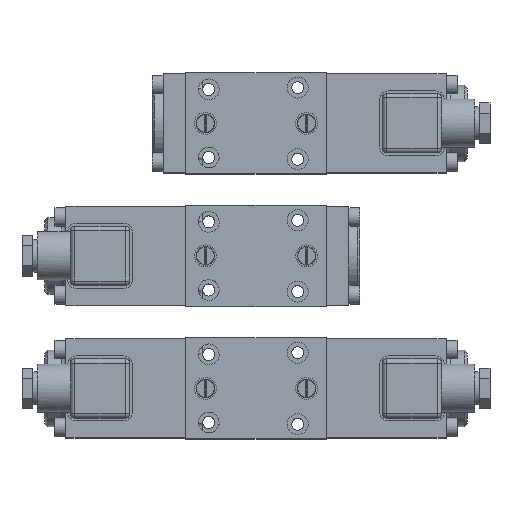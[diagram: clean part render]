
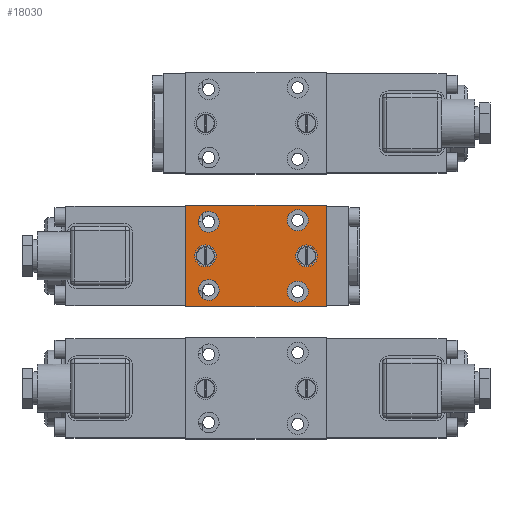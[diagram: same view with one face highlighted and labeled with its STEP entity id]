
A CAD part, top view. The second image highlights one B-rep face of the part: STEP entity #18030.
In plain terms, the highlighted planar face has unit normal (0, 0, 1).
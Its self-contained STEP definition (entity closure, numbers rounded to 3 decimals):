
#18030=ADVANCED_FACE('', (#18040,#18050,#18060,#18070,#18080), #18090, 
.T.);
#72890=AXIS2_PLACEMENT_3D('Ax2Pl3d', #72900, #72910, #72920);
#72930=AXIS2_PLACEMENT_3D('Ax2Pl3d', #72940, #72950, #72960);
#72970=AXIS2_PLACEMENT_3D('Ax2Pl3d', #72980, #72990, #73000);
#73010=AXIS2_PLACEMENT_3D('Ax2Pl3d', #73020, #73030, #73040);
#73050=AXIS2_PLACEMENT_3D('Ax2Pl3d', #73060, #73070, #73080);
#72900=CARTESIAN_POINT('HicPkt', (10.5,67.5,226.));
#140490=CARTESIAN_POINT('', (10.5,72.25,226.));
#72940=CARTESIAN_POINT('HicPkt', (0.,106.,226.));
#140520=CARTESIAN_POINT('', (0.,60.,226.));
#140530=CARTESIAN_POINT('', (0.,106.,226.));
#140540=CARTESIAN_POINT('', (0.,60.,226.));
#140550=CARTESIAN_POINT('', (64.,60.,226.));
#140560=CARTESIAN_POINT('', (64.,60.,226.));
#140570=CARTESIAN_POINT('', (64.,106.,226.));
#140580=CARTESIAN_POINT('', (64.,106.,226.));
#140590=CARTESIAN_POINT('', (0.,106.,226.));
#72980=CARTESIAN_POINT('HicPkt', (10.5,98.5,226.));
#140600=CARTESIAN_POINT('', (10.5,103.25,226.));
#73020=CARTESIAN_POINT('HicPkt', (51.,66.75,226.));
#140610=CARTESIAN_POINT('', (51.,71.5,226.));
#73060=CARTESIAN_POINT('HicPkt', (51.,99.25,226.));
#140620=CARTESIAN_POINT('', (51.,104.,226.));
#159170=CIRCLE('Circle', #72890, 4.75);
#159180=CIRCLE('Circle', #72970, 4.75);
#159190=CIRCLE('Circle', #73010, 4.75);
#159200=CIRCLE('Circle', #73050, 4.75);
#72910=DIRECTION('Axis', (0.,0.,1.));
#72920=DIRECTION('RefDirection', (1.,0.,0.));
#72950=DIRECTION('Axis', (0.,0.,1.));
#72960=DIRECTION('RefDirection', (1.,0.,0.));
#242770=DIRECTION('', (0.,-1.,0.));
#242780=DIRECTION('', (1.,0.,0.));
#242790=DIRECTION('', (0.,1.,0.));
#242800=DIRECTION('', (-1.,0.,0.));
#72990=DIRECTION('Axis', (0.,0.,1.));
#73000=DIRECTION('RefDirection', (1.,0.,0.));
#73030=DIRECTION('Axis', (0.,0.,1.));
#73040=DIRECTION('RefDirection', (1.,0.,0.));
#73070=DIRECTION('Axis', (0.,0.,1.));
#73080=DIRECTION('RefDirection', (1.,0.,0.));
#271080=EDGE_CURVE('', #271090, #271090, #159170, .T.);
#271140=EDGE_CURVE('', #271150, #271160, #271170, .T.);
#271180=EDGE_CURVE('', #271160, #271190, #271200, .T.);
#271210=EDGE_CURVE('', #271190, #271220, #271230, .T.);
#271240=EDGE_CURVE('', #271220, #271150, #271250, .T.);
#271260=EDGE_CURVE('', #271270, #271270, #159180, .T.);
#271280=EDGE_CURVE('', #271290, #271290, #159190, .T.);
#271300=EDGE_CURVE('', #271310, #271310, #159200, .T.);
#322210=EDGE_LOOP('Edge_loop', (#322220,#322230,#322240,#322250));
#322260=EDGE_LOOP('Edge_loop', (#322270));
#322280=EDGE_LOOP('Edge_loop', (#322290));
#322300=EDGE_LOOP('Edge_loop', (#322310));
#322320=EDGE_LOOP('Edge_loop', (#322330));
#18050=FACE_BOUND('', #322260, .T.);
#18060=FACE_BOUND('', #322280, .T.);
#18070=FACE_BOUND('', #322300, .T.);
#18080=FACE_BOUND('', #322320, .T.);
#18040=FACE_OUTER_BOUND('Face_outer_bound', #322210, .T.);
#271170=LINE('Line', #140520, #385310);
#271200=LINE('Line', #140550, #385320);
#271230=LINE('Line', #140570, #385330);
#271250=LINE('Line', #140590, #385340);
#322220=ORIENTED_EDGE('', *, *, #271140, .T.);
#322230=ORIENTED_EDGE('', *, *, #271180, .T.);
#322240=ORIENTED_EDGE('', *, *, #271210, .T.);
#322250=ORIENTED_EDGE('', *, *, #271240, .T.);
#322270=ORIENTED_EDGE('', *, *, #271080, .F.);
#322290=ORIENTED_EDGE('', *, *, #271260, .F.);
#322310=ORIENTED_EDGE('', *, *, #271280, .F.);
#322330=ORIENTED_EDGE('', *, *, #271300, .F.);
#18090=PLANE('Plane', #72930);
#385310=VECTOR('', #242770, 46.);
#385320=VECTOR('', #242780, 64.);
#385330=VECTOR('', #242790, 46.);
#385340=VECTOR('', #242800, 64.);
#271090=VERTEX_POINT('', #140490);
#271150=VERTEX_POINT('', #140530);
#271160=VERTEX_POINT('', #140540);
#271190=VERTEX_POINT('', #140560);
#271220=VERTEX_POINT('', #140580);
#271270=VERTEX_POINT('', #140600);
#271290=VERTEX_POINT('', #140610);
#271310=VERTEX_POINT('', #140620);
